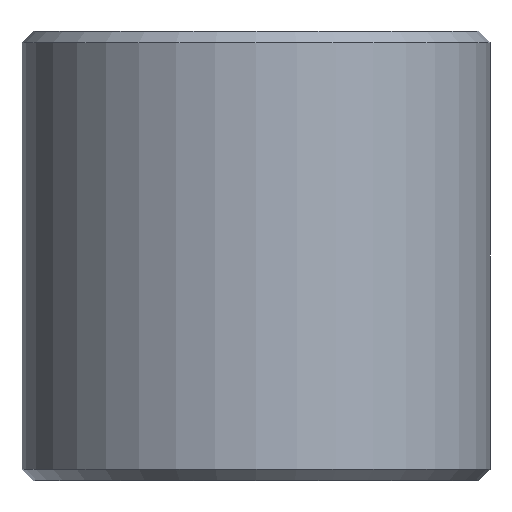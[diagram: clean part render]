
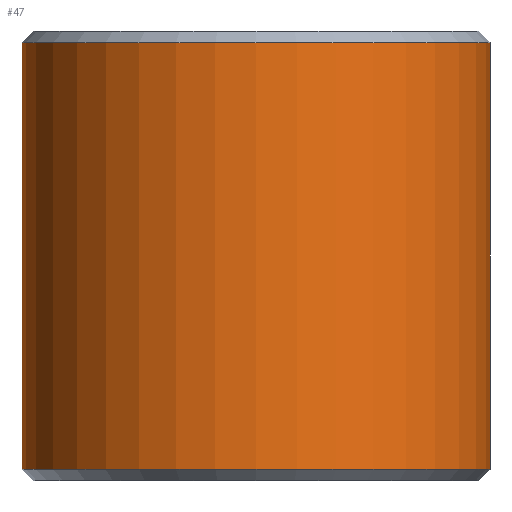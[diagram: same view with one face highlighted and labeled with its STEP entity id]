
A CAD part, front view. The second image highlights one B-rep face of the part: STEP entity #47.
In plain terms, the highlighted cylindrical face has radius 25 mm (diameter 50 mm), a partial arc.
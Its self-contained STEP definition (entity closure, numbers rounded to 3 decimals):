
#15 = AXIS2_PLACEMENT_3D ( 'NONE', #129, #182, #150 ) ;
#27 = EDGE_CURVE ( 'NONE', #66, #188, #330, .T. ) ;
#47 = ADVANCED_FACE ( 'NONE', ( #81 ), #300, .T. ) ;
#66 = VERTEX_POINT ( 'NONE', #331 ) ;
#81 = FACE_OUTER_BOUND ( 'NONE', #348, .T. ) ;
#87 = AXIS2_PLACEMENT_3D ( 'NONE', #234, #376, #124 ) ;
#90 = CARTESIAN_POINT ( 'NONE',  ( 25., 0., -22.8 ) ) ;
#91 = DIRECTION ( 'NONE',  ( 0., 0., -1. ) ) ;
#92 = VECTOR ( 'NONE', #91, 1000. ) ;
#99 = VECTOR ( 'NONE', #190, 1000. ) ;
#101 = CIRCLE ( 'NONE', #87, 25. ) ;
#118 = CARTESIAN_POINT ( 'NONE',  ( -25., 0., 24. ) ) ;
#119 = CARTESIAN_POINT ( 'NONE',  ( -25., 0., -22.8 ) ) ;
#122 = CARTESIAN_POINT ( 'NONE',  ( 0., 0., 22.8 ) ) ;
#124 = DIRECTION ( 'NONE',  ( 1., 0., 0. ) ) ;
#129 = CARTESIAN_POINT ( 'NONE',  ( 0., 0., 24. ) ) ;
#150 = DIRECTION ( 'NONE',  ( -1., 0., 0. ) ) ;
#155 = CARTESIAN_POINT ( 'NONE',  ( 25., 0., 24. ) ) ;
#157 = AXIS2_PLACEMENT_3D ( 'NONE', #122, #396, #357 ) ;
#182 = DIRECTION ( 'NONE',  ( 0., 0., -1. ) ) ;
#185 = ORIENTED_EDGE ( 'NONE', *, *, #304, .T. ) ;
#188 = VERTEX_POINT ( 'NONE', #119 ) ;
#190 = DIRECTION ( 'NONE',  ( 0., 0., -1. ) ) ;
#228 = CARTESIAN_POINT ( 'NONE',  ( 25., 0., 22.8 ) ) ;
#234 = CARTESIAN_POINT ( 'NONE',  ( 0., 0., -22.8 ) ) ;
#245 = ORIENTED_EDGE ( 'NONE', *, *, #352, .F. ) ;
#264 = LINE ( 'NONE', #155, #92 ) ;
#276 = EDGE_CURVE ( 'NONE', #358, #66, #418, .T. ) ;
#300 = CYLINDRICAL_SURFACE ( 'NONE', #15, 25. ) ;
#304 = EDGE_CURVE ( 'NONE', #188, #363, #101, .T. ) ;
#330 = LINE ( 'NONE', #118, #99 ) ;
#331 = CARTESIAN_POINT ( 'NONE',  ( -25., 0., 22.8 ) ) ;
#348 = EDGE_LOOP ( 'NONE', ( #245, #435, #448, #185 ) ) ;
#352 = EDGE_CURVE ( 'NONE', #358, #363, #264, .T. ) ;
#357 = DIRECTION ( 'NONE',  ( 1., 0., 0. ) ) ;
#358 = VERTEX_POINT ( 'NONE', #228 ) ;
#363 = VERTEX_POINT ( 'NONE', #90 ) ;
#376 = DIRECTION ( 'NONE',  ( 0., 0., 1. ) ) ;
#396 = DIRECTION ( 'NONE',  ( 0., 0., -1. ) ) ;
#418 = CIRCLE ( 'NONE', #157, 25. ) ;
#435 = ORIENTED_EDGE ( 'NONE', *, *, #276, .T. ) ;
#448 = ORIENTED_EDGE ( 'NONE', *, *, #27, .T. ) ;
